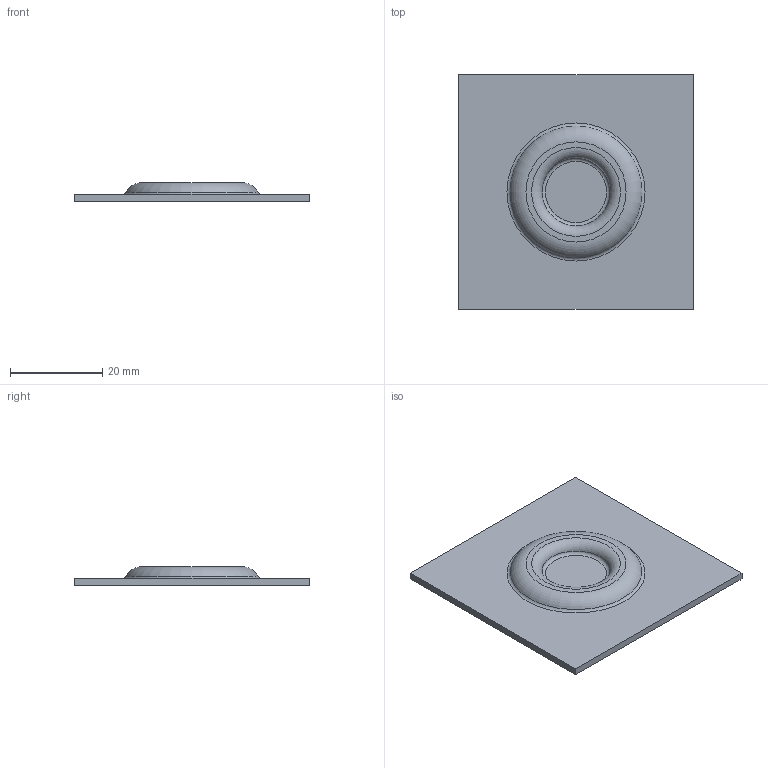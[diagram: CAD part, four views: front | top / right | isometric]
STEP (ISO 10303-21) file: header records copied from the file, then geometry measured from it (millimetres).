
FILE_DESCRIPTION((''),'1');
FILE_NAME('C:/Users/robertnolte/Desktop/902517-20.stp','2012-04-03T22:14:48',(''),(''),'Spatial Interop R21 SP3','Kubotek KeyCreator 2011 V10.5.0 (24766)',' ');
FILE_SCHEMA(('CONFIG_CONTROL_DESIGN'));
Length unit declared in the file: inch
Products named in the file (1): 1
Bounding box: 50.8 x 50.8 x 4.06 mm (x, y, z)
Volume: 4156.5 mm3; surface area: 5764.4 mm2
Topology: 1 solids, 1 shells, 18 faces, 36 edges, 24 vertices
Faces by surface type: plane 10, torus 8
Entity records: 440 total; most frequent: DIRECTION 74, CARTESIAN_POINT 63, ORIENTED_EDGE 48, AXIS2_PLACEMENT_3D 31, EDGE_LOOP 30, EDGE_CURVE 24, FACE_BOUND 20, VERTEX_POINT 20
